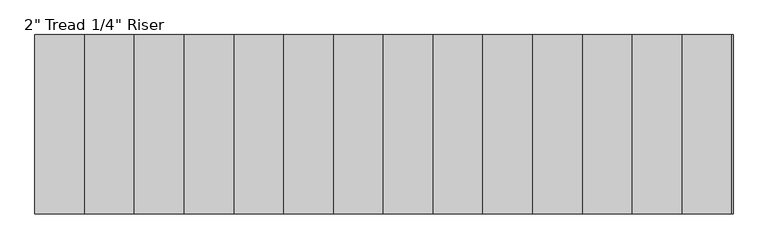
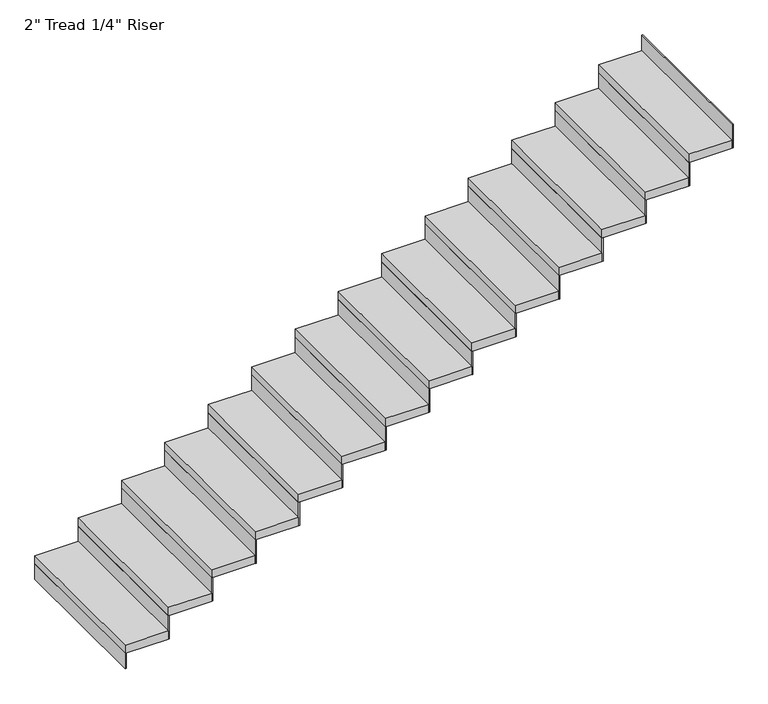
"""IFC4 building model written with IfcOpenShell, lengths in millimetres: stair flight geometry."""

from ifc_helpers import new_model, si_unit, frame, origin, origin_with_axes, place, context, project, spatial, polyline, outline, extrude, source, transform, mapped, element, save


def stair_flight_86070106(model_context):
    return source(origin(), model_context, "Body", "SweptSolid", [
        extrude(outline(polyline([(84475.4645262, 34007.0395941), (84469.1145262, 34007.0395941), (84469.1145262, 34921.4395941), (84475.4645262, 34921.4395941), (84475.4645262, 34007.0395941)])), origin_with_axes(), (0.0, 0.0, 1.0), 94.3428571),
        extrude(outline(polyline([(84723.1145262, 34921.4395941), (84723.1145262, 34007.0395941), (84469.1145262, 34007.0395941), (84469.1145262, 34921.4395941), (84723.1145262, 34921.4395941)])), frame((0.0, 0.0, 94.3428571), z_axis=(0.0, 0.0, 1.0), x_axis=(1.0, 0.0, 0.0)), (0.0, 0.0, 1.0), 50.8),
        extrude(outline(polyline([(84729.4645262, 34007.0395941), (84723.1145262, 34007.0395941), (84723.1145262, 34921.4395941), (84729.4645262, 34921.4395941), (84729.4645262, 34007.0395941)])), frame((0.0, 0.0, 94.3428571), z_axis=(0.0, 0.0, 1.0), x_axis=(1.0, 0.0, 0.0)), (0.0, 0.0, 1.0), 145.1428571),
        extrude(outline(polyline([(84977.1145262, 34921.4395941), (84977.1145262, 34007.0395941), (84723.1145262, 34007.0395941), (84723.1145262, 34921.4395941), (84977.1145262, 34921.4395941)])), frame((0.0, 0.0, 239.4857143), z_axis=(0.0, 0.0, 1.0), x_axis=(1.0, 0.0, 0.0)), (0.0, 0.0, 1.0), 50.8),
        extrude(outline(polyline([(84983.4645262, 34007.0395941), (84977.1145262, 34007.0395941), (84977.1145262, 34921.4395941), (84983.4645262, 34921.4395941), (84983.4645262, 34007.0395941)])), frame((0.0, 0.0, 239.4857143), z_axis=(0.0, 0.0, 1.0), x_axis=(1.0, 0.0, 0.0)), (0.0, 0.0, 1.0), 145.1428571),
        extrude(outline(polyline([(85231.1145262, 34921.4395941), (85231.1145262, 34007.0395941), (84977.1145262, 34007.0395941), (84977.1145262, 34921.4395941), (85231.1145262, 34921.4395941)])), frame((0.0, 0.0, 384.6285714), z_axis=(0.0, 0.0, 1.0), x_axis=(1.0, 0.0, 0.0)), (0.0, 0.0, 1.0), 50.8),
        extrude(outline(polyline([(85237.4645262, 34007.0395941), (85231.1145262, 34007.0395941), (85231.1145262, 34921.4395941), (85237.4645262, 34921.4395941), (85237.4645262, 34007.0395941)])), frame((0.0, 0.0, 384.6285714), z_axis=(0.0, 0.0, 1.0), x_axis=(1.0, 0.0, 0.0)), (0.0, 0.0, 1.0), 145.1428571),
        extrude(outline(polyline([(85485.1145262, 34921.4395941), (85485.1145262, 34007.0395941), (85231.1145262, 34007.0395941), (85231.1145262, 34921.4395941), (85485.1145262, 34921.4395941)])), frame((0.0, 0.0, 529.7714286), z_axis=(0.0, 0.0, 1.0), x_axis=(1.0, 0.0, 0.0)), (0.0, 0.0, 1.0), 50.8),
        extrude(outline(polyline([(85491.4645262, 34007.0395941), (85485.1145262, 34007.0395941), (85485.1145262, 34921.4395941), (85491.4645262, 34921.4395941), (85491.4645262, 34007.0395941)])), frame((0.0, 0.0, 529.7714286), z_axis=(0.0, 0.0, 1.0), x_axis=(1.0, 0.0, 0.0)), (0.0, 0.0, 1.0), 145.1428571),
        extrude(outline(polyline([(85739.1145262, 34921.4395941), (85739.1145262, 34007.0395941), (85485.1145262, 34007.0395941), (85485.1145262, 34921.4395941), (85739.1145262, 34921.4395941)])), frame((0.0, 0.0, 674.9142857), z_axis=(0.0, 0.0, 1.0), x_axis=(1.0, 0.0, 0.0)), (0.0, 0.0, 1.0), 50.8),
        extrude(outline(polyline([(85745.4645262, 34007.0395941), (85739.1145262, 34007.0395941), (85739.1145262, 34921.4395941), (85745.4645262, 34921.4395941), (85745.4645262, 34007.0395941)])), frame((0.0, 0.0, 674.9142857), z_axis=(0.0, 0.0, 1.0), x_axis=(1.0, 0.0, 0.0)), (0.0, 0.0, 1.0), 145.1428571),
        extrude(outline(polyline([(85993.1145262, 34921.4395941), (85993.1145262, 34007.0395941), (85739.1145262, 34007.0395941), (85739.1145262, 34921.4395941), (85993.1145262, 34921.4395941)])), frame((0.0, 0.0, 820.0571429), z_axis=(0.0, 0.0, 1.0), x_axis=(1.0, 0.0, 0.0)), (0.0, 0.0, 1.0), 50.8),
        extrude(outline(polyline([(85999.4645262, 34007.0395941), (85993.1145262, 34007.0395941), (85993.1145262, 34921.4395941), (85999.4645262, 34921.4395941), (85999.4645262, 34007.0395941)])), frame((0.0, 0.0, 820.0571429), z_axis=(0.0, 0.0, 1.0), x_axis=(1.0, 0.0, 0.0)), (0.0, 0.0, 1.0), 145.1428571),
        extrude(outline(polyline([(86247.1145262, 34921.4395941), (86247.1145262, 34007.0395941), (85993.1145262, 34007.0395941), (85993.1145262, 34921.4395941), (86247.1145262, 34921.4395941)])), frame((0.0, 0.0, 965.2), z_axis=(0.0, 0.0, 1.0), x_axis=(1.0, 0.0, 0.0)), (0.0, 0.0, 1.0), 50.8),
        extrude(outline(polyline([(86253.4645262, 34007.0395941), (86247.1145262, 34007.0395941), (86247.1145262, 34921.4395941), (86253.4645262, 34921.4395941), (86253.4645262, 34007.0395941)])), frame((0.0, 0.0, 965.2), z_axis=(0.0, 0.0, 1.0), x_axis=(1.0, 0.0, 0.0)), (0.0, 0.0, 1.0), 145.1428571),
        extrude(outline(polyline([(86501.1145262, 34921.4395941), (86501.1145262, 34007.0395941), (86247.1145262, 34007.0395941), (86247.1145262, 34921.4395941), (86501.1145262, 34921.4395941)])), frame((0.0, 0.0, 1110.3428571), z_axis=(0.0, 0.0, 1.0), x_axis=(1.0, 0.0, 0.0)), (0.0, 0.0, 1.0), 50.8),
        extrude(outline(polyline([(86507.4645262, 34007.0395941), (86501.1145262, 34007.0395941), (86501.1145262, 34921.4395941), (86507.4645262, 34921.4395941), (86507.4645262, 34007.0395941)])), frame((0.0, 0.0, 1110.3428571), z_axis=(0.0, 0.0, 1.0), x_axis=(1.0, 0.0, 0.0)), (0.0, 0.0, 1.0), 145.1428571),
        extrude(outline(polyline([(86755.1145262, 34921.4395941), (86755.1145262, 34007.0395941), (86501.1145262, 34007.0395941), (86501.1145262, 34921.4395941), (86755.1145262, 34921.4395941)])), frame((0.0, 0.0, 1255.4857143), z_axis=(0.0, 0.0, 1.0), x_axis=(1.0, 0.0, 0.0)), (0.0, 0.0, 1.0), 50.8),
        extrude(outline(polyline([(86761.4645262, 34007.0395941), (86755.1145262, 34007.0395941), (86755.1145262, 34921.4395941), (86761.4645262, 34921.4395941), (86761.4645262, 34007.0395941)])), frame((0.0, 0.0, 1255.4857143), z_axis=(0.0, 0.0, 1.0), x_axis=(1.0, 0.0, 0.0)), (0.0, 0.0, 1.0), 145.1428571),
        extrude(outline(polyline([(87009.1145262, 34921.4395941), (87009.1145262, 34007.0395941), (86755.1145262, 34007.0395941), (86755.1145262, 34921.4395941), (87009.1145262, 34921.4395941)])), frame((0.0, 0.0, 1400.6285714), z_axis=(0.0, 0.0, 1.0), x_axis=(1.0, 0.0, 0.0)), (0.0, 0.0, 1.0), 50.8),
        extrude(outline(polyline([(87015.4645262, 34007.0395941), (87009.1145262, 34007.0395941), (87009.1145262, 34921.4395941), (87015.4645262, 34921.4395941), (87015.4645262, 34007.0395941)])), frame((0.0, 0.0, 1400.6285714), z_axis=(0.0, 0.0, 1.0), x_axis=(1.0, 0.0, 0.0)), (0.0, 0.0, 1.0), 145.1428571),
        extrude(outline(polyline([(87263.1145262, 34921.4395941), (87263.1145262, 34007.0395941), (87009.1145262, 34007.0395941), (87009.1145262, 34921.4395941), (87263.1145262, 34921.4395941)])), frame((0.0, 0.0, 1545.7714286), z_axis=(0.0, 0.0, 1.0), x_axis=(1.0, 0.0, 0.0)), (0.0, 0.0, 1.0), 50.8),
        extrude(outline(polyline([(87269.4645262, 34007.0395941), (87263.1145262, 34007.0395941), (87263.1145262, 34921.4395941), (87269.4645262, 34921.4395941), (87269.4645262, 34007.0395941)])), frame((0.0, 0.0, 1545.7714286), z_axis=(0.0, 0.0, 1.0), x_axis=(1.0, 0.0, 0.0)), (0.0, 0.0, 1.0), 145.1428571),
        extrude(outline(polyline([(87517.1145262, 34921.4395941), (87517.1145262, 34007.0395941), (87263.1145262, 34007.0395941), (87263.1145262, 34921.4395941), (87517.1145262, 34921.4395941)])), frame((0.0, 0.0, 1690.9142857), z_axis=(0.0, 0.0, 1.0), x_axis=(1.0, 0.0, 0.0)), (0.0, 0.0, 1.0), 50.8),
        extrude(outline(polyline([(87523.4645262, 34007.0395941), (87517.1145262, 34007.0395941), (87517.1145262, 34921.4395941), (87523.4645262, 34921.4395941), (87523.4645262, 34007.0395941)])), frame((0.0, 0.0, 1690.9142857), z_axis=(0.0, 0.0, 1.0), x_axis=(1.0, 0.0, 0.0)), (0.0, 0.0, 1.0), 145.1428571),
        extrude(outline(polyline([(87771.1145262, 34921.4395941), (87771.1145262, 34007.0395941), (87517.1145262, 34007.0395941), (87517.1145262, 34921.4395941), (87771.1145262, 34921.4395941)])), frame((0.0, 0.0, 1836.0571429), z_axis=(0.0, 0.0, 1.0), x_axis=(1.0, 0.0, 0.0)), (0.0, 0.0, 1.0), 50.8),
        extrude(outline(polyline([(87777.4645262, 34007.0395941), (87771.1145262, 34007.0395941), (87771.1145262, 34921.4395941), (87777.4645262, 34921.4395941), (87777.4645262, 34007.0395941)])), frame((0.0, 0.0, 1836.0571429), z_axis=(0.0, 0.0, 1.0), x_axis=(1.0, 0.0, 0.0)), (0.0, 0.0, 1.0), 145.1428571),
        extrude(outline(polyline([(88031.4645262, 34007.0395941), (88025.1145262, 34007.0395941), (88025.1145262, 34921.4395941), (88031.4645262, 34921.4395941), (88031.4645262, 34007.0395941)])), frame((0.0, 0.0, 1981.2), z_axis=(0.0, 0.0, 1.0), x_axis=(1.0, 0.0, 0.0)), (0.0, 0.0, 1.0), 145.1428571),
        extrude(outline(polyline([(88025.1145262, 34921.4395941), (88025.1145262, 34007.0395941), (87771.1145262, 34007.0395941), (87771.1145262, 34921.4395941), (88025.1145262, 34921.4395941)])), frame((0.0, 0.0, 1981.2), z_axis=(0.0, 0.0, 1.0), x_axis=(1.0, 0.0, 0.0)), (0.0, 0.0, 1.0), 50.8),
    ])


if __name__ == "__main__":
    model = new_model("IFC4")
    model_context = context("Model", 3, world=origin())
    ifc_project = project(units=[si_unit("LENGTHUNIT", "METRE", prefix="MILLI")], contexts=[model_context])
    site = spatial("IfcSite", under=ifc_project)
    building = spatial("IfcBuilding", under=site)
    placement = place(None, origin())
    stair_flight_shape = stair_flight_86070106(model_context)
    element("IfcStairFlight", 1, ObjectType="2\" Tread 1/4\" Riser", at=placement, inside=building, context=model_context, shape_type="MappedRepresentation", body=[
        mapped(stair_flight_shape, transform((0.0, 0.0, 0.0), x_axis=(1.0, 0.0, 0.0), y_axis=(0.0, 1.0, 0.0), z_axis=(0.0, 0.0, 1.0))),
    ])
    save(model, "model.ifc")
